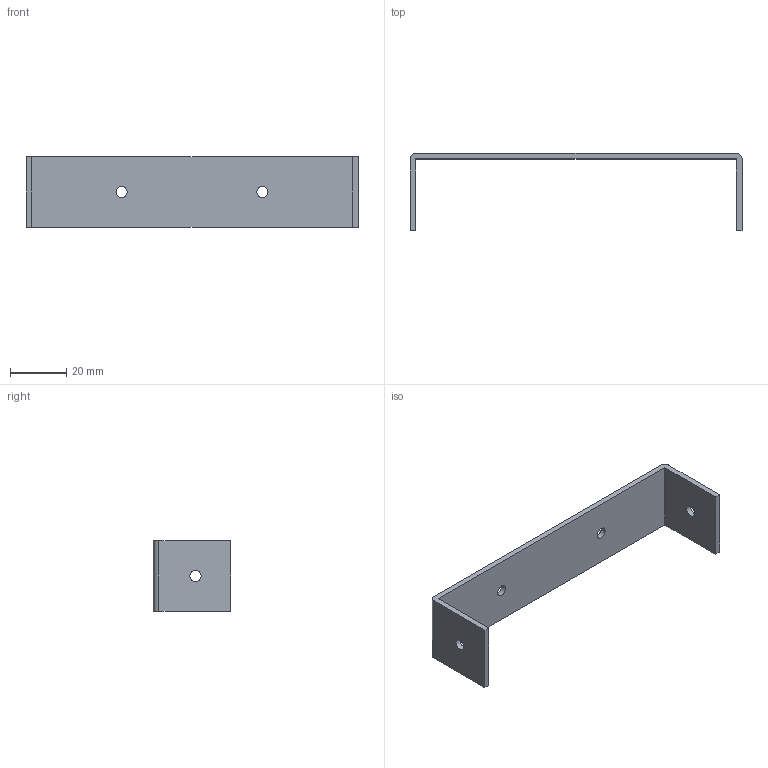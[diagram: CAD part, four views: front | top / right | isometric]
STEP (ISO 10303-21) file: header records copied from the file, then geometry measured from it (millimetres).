
FILE_DESCRIPTION(('HOOPS Exchange Step'),'2;1');
FILE_NAME('C:\Users\ZakSawa\AppData\Local\Temp\Alibre Design\export-B4B4820F-91D5-4CE8-914F-D5BAA0BEB58A.stp','2019-08-02T19:48:26+09:00',('ZakSawa'),('Alibre'),'HOOPS Exchange 2019.2','Alibre','Unknown authorisation');
FILE_SCHEMA( ('AP203_CONFIGURATION_CONTROLLED_3D_DESIGN_OF_MECHANICAL_PARTS_AND_ASSEMBLIES_MIM_LF') );
Length unit declared in the file: millimetre
Products named in the file (1): BatteryHolderMainFrameB
Bounding box: 118 x 27.5 x 25 mm (x, y, z)
Volume: 8306.5 mm3; surface area: 9179.6 mm2
Topology: 1 solids, 1 shells, 16 faces, 44 edges, 30 vertices
Faces by surface type: plane 10, cylinder 6
Full cylindrical faces by diameter (mm): 4 x4
Entity records: 559 total; most frequent: DIRECTION 92, CARTESIAN_POINT 91, ORIENTED_EDGE 88, EDGE_CURVE 44, AXIS2_PLACEMENT_3D 31, VERTEX_POINT 30, VECTOR 30, LINE 30
